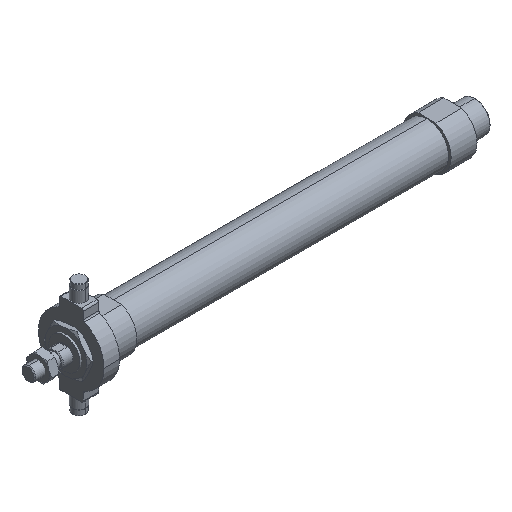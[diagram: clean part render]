
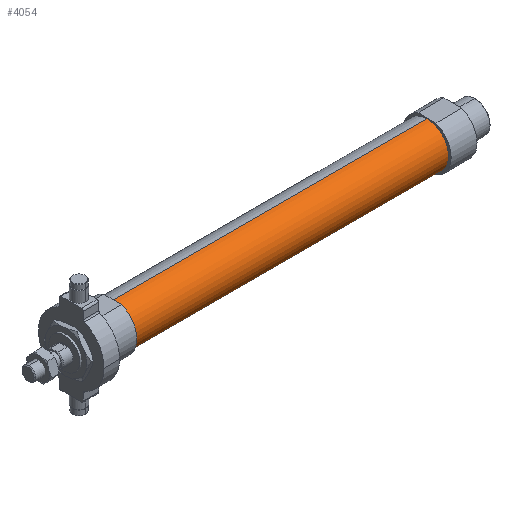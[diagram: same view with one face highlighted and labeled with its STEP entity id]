
A CAD part, isometric view. The second image highlights one B-rep face of the part: STEP entity #4054.
In plain terms, the highlighted cylindrical face has radius 12.5 mm (diameter 25 mm), a partial arc.
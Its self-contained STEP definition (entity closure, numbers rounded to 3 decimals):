
#15 = CARTESIAN_POINT ( 'NONE',  ( 231., 0., 12.5 ) ) ;
#205 = DIRECTION ( 'NONE',  ( 0., 0., 1. ) ) ;
#363 = EDGE_CURVE ( 'NONE', #664, #1964, #4031, .T. ) ;
#430 = DIRECTION ( 'NONE',  ( 0., 0., 1. ) ) ;
#545 = CARTESIAN_POINT ( 'NONE',  ( 49., 0., -12.5 ) ) ;
#664 = VERTEX_POINT ( 'NONE', #3987 ) ;
#724 = ORIENTED_EDGE ( 'NONE', *, *, #1822, .F. ) ;
#748 = EDGE_LOOP ( 'NONE', ( #724, #3670, #2692, #1459 ) ) ;
#756 = CARTESIAN_POINT ( 'NONE',  ( -6.469, 0., -12.5 ) ) ;
#879 = DIRECTION ( 'NONE',  ( 0., 0., 1. ) ) ;
#958 = CYLINDRICAL_SURFACE ( 'NONE', #1377, 12.5 ) ;
#1178 = AXIS2_PLACEMENT_3D ( 'NONE', #3789, #2336, #879 ) ;
#1296 = EDGE_CURVE ( 'NONE', #1964, #3174, #1857, .T. ) ;
#1377 = AXIS2_PLACEMENT_3D ( 'NONE', #1736, #2628, #430 ) ;
#1459 = ORIENTED_EDGE ( 'NONE', *, *, #2891, .F. ) ;
#1736 = CARTESIAN_POINT ( 'NONE',  ( -6.469, 0., 0. ) ) ;
#1822 = EDGE_CURVE ( 'NONE', #664, #3642, #1906, .T. ) ;
#1857 = LINE ( 'NONE', #4001, #2433 ) ;
#1906 = LINE ( 'NONE', #756, #3654 ) ;
#1933 = CIRCLE ( 'NONE', #4058, 12.5 ) ;
#1959 = FACE_OUTER_BOUND ( 'NONE', #748, .T. ) ;
#1964 = VERTEX_POINT ( 'NONE', #15 ) ;
#2336 = DIRECTION ( 'NONE',  ( -1., 0., 0. ) ) ;
#2433 = VECTOR ( 'NONE', #3916, 1000. ) ;
#2500 = CARTESIAN_POINT ( 'NONE',  ( 49., 0., 12.5 ) ) ;
#2628 = DIRECTION ( 'NONE',  ( -1., 0., 0. ) ) ;
#2692 = ORIENTED_EDGE ( 'NONE', *, *, #1296, .T. ) ;
#2891 = EDGE_CURVE ( 'NONE', #3642, #3174, #1933, .T. ) ;
#2960 = DIRECTION ( 'NONE',  ( -1., 0., 0. ) ) ;
#3174 = VERTEX_POINT ( 'NONE', #2500 ) ;
#3642 = VERTEX_POINT ( 'NONE', #545 ) ;
#3654 = VECTOR ( 'NONE', #3984, 1000. ) ;
#3670 = ORIENTED_EDGE ( 'NONE', *, *, #363, .T. ) ;
#3789 = CARTESIAN_POINT ( 'NONE',  ( 231., 0., 0. ) ) ;
#3916 = DIRECTION ( 'NONE',  ( -1., 0., 0. ) ) ;
#3984 = DIRECTION ( 'NONE',  ( -1., 0., 0. ) ) ;
#3987 = CARTESIAN_POINT ( 'NONE',  ( 231., 0., -12.5 ) ) ;
#4001 = CARTESIAN_POINT ( 'NONE',  ( -6.469, 0., 12.5 ) ) ;
#4031 = CIRCLE ( 'NONE', #1178, 12.5 ) ;
#4054 = ADVANCED_FACE ( 'NONE', ( #1959 ), #958, .T. ) ;
#4058 = AXIS2_PLACEMENT_3D ( 'NONE', #4364, #2960, #205 ) ;
#4364 = CARTESIAN_POINT ( 'NONE',  ( 49., 0., 0. ) ) ;
